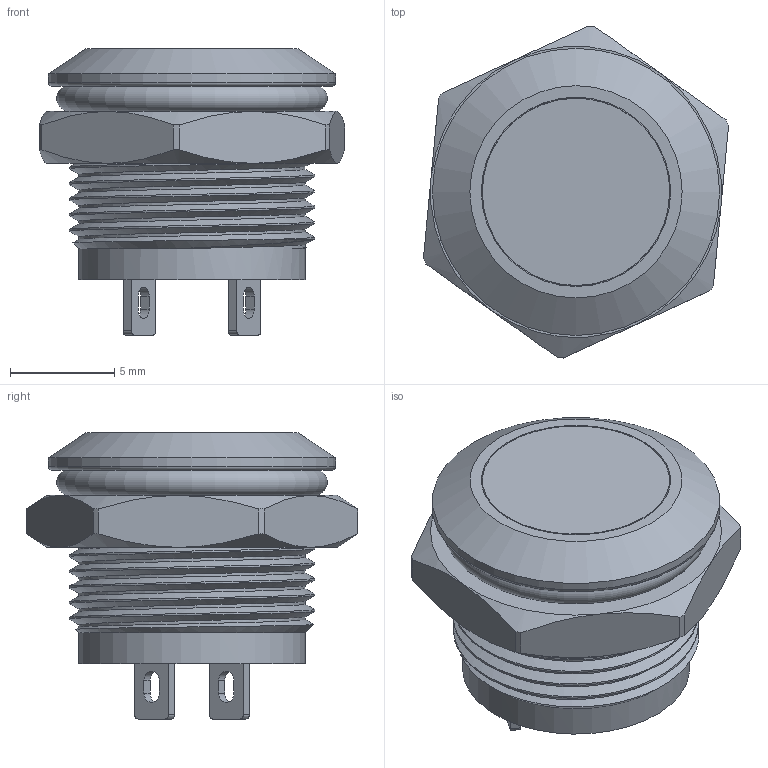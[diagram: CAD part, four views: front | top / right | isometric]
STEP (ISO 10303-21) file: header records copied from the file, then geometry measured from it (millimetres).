
FILE_DESCRIPTION(/* description */ (''),/* implementation_level */ '2;1');
FILE_NAME(/* name */ 'EJ12-211PM.stp',/* time_stamp */ '2019-11-08T13:38:16+08:00',/* author */ (''),/* organization */ (''),/* preprocessor_version */ 'ST-DEVELOPER v11',/* originating_system */ 'SIEMENS UGS NX 6.0',/* authorisation */ '');
FILE_SCHEMA (('CONFIG_CONTROL_DESIGN'));
Length unit declared in the file: millimetre
Products named in the file (8): JH8.683.066; JH8.382.109; JH7.740.176; JH7.810.267; JH7.370.471; JH8.382.298; JH8.382.299; EJ12-211PM
Assembly tree (11 placements, depth 2):
  EJ12-211PM
    JH8.382.299
    JH8.382.298
    JH7.370.471  x2
    JH7.810.267  x2
    JH7.740.176  x2
    JH8.382.109  x2
    JH8.683.066
Bounding box: 14.67 x 15.95 x 13.75 mm (x, y, z)
Volume: 1581.4 mm3; surface area: 3696.8 mm2
Topology: 11 solids, 11 shells, 383 faces, 933 edges, 602 vertices
Faces by surface type: plane 250, cylinder 67, cone 36, extrusion 16, torus 8, bspline 6
Full cylindrical faces by diameter (mm): 1.55 x2, 1.95 x1, 7.3 x1, 7.4 x2, 9 x3, 9.1 x1, 9.6 x1, 10.3 x2, 10.5 x1, 10.9 x11, 13.8 x1
Entity records: 8316 total; most frequent: CARTESIAN_POINT 2897, ORIENTED_EDGE 896, DIRECTION 851, EDGE_CURVE 448, VERTEX_POINT 301, AXIS2_PLACEMENT_3D 295, VECTOR 261, EDGE_LOOP 256
